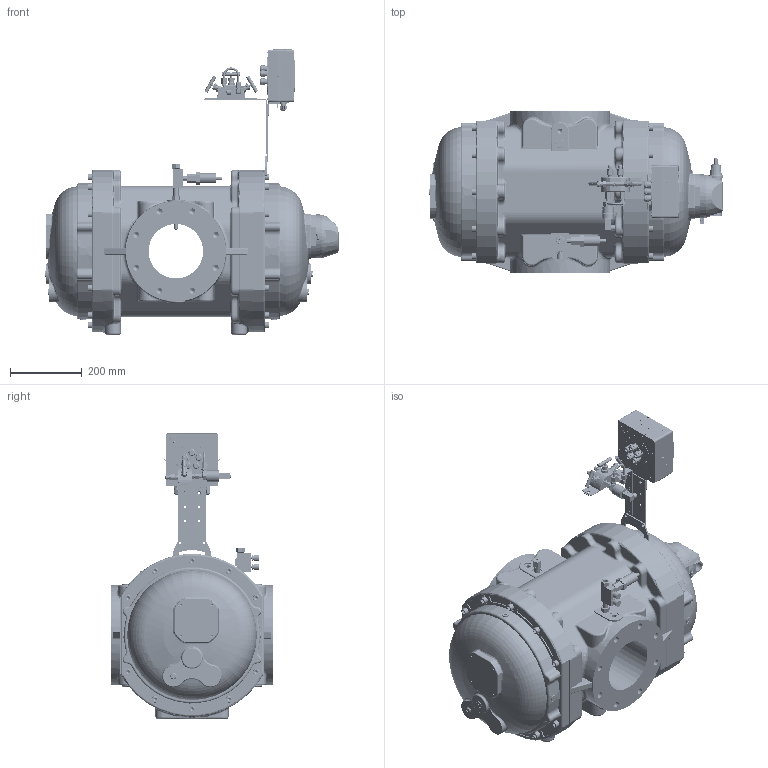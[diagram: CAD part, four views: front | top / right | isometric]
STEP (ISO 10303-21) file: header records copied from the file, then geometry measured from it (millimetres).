
FILE_DESCRIPTION(('STEP AP242'), '1');
FILE_NAME('ÝÐ-245-G650 áåç èñòîðèè', '', ('UNSPECIFIED'), ('UNSPECIFIED'), 'C3D Converter', 'C3D Toolkit', '');
FILE_SCHEMA(('AP242_MANAGED_MODEL_BASED_3D_ENGINEERING_MIM_LF { 1 0 10303 442 1 1 4 }'));
Length unit declared in the file: millimetre
Bounding box: 820 x 450 x 796.54 mm (x, y, z)
Volume: 33177812.8 mm3; surface area: 2963497.2 mm2
Topology: 172 solids, 174 shells, 34311 faces, 92814 edges, 61158 vertices
Faces by surface type: plane 15686, extrusion 11492, cylinder 4762, bspline 909, cone 792, torus 593, sphere 77
Full cylindrical faces by diameter (mm): 1.5 x1, 1.95 x3, 2 x12, 2.459 x22, 2.5 x4, 2.791 x2, 2.9 x4, 3 x30, 3.2 x13, 3.242 x8, 3.3 x6, 3.45 x7, 3.5 x16, 4 x18, 4.1 x8, 4.134 x1, 4.2 x12, 4.4 x1, 4.917 x13, 5 x26, 5.2 x4, 5.5 x20, 5.6 x20, 6 x15, 6.2 x2, 6.4 x6, 6.5 x8, 7 x18, 8 x22, 8.5 x7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
Entity records: 1484815 total; most frequent: CARTESIAN_POINT 425260, ORIENTED_EDGE 182195, DIRECTION 131374, EDGE_CURVE 91098, VECTOR 63908, VERTEX_POINT 61058, LINE 52416, EDGE_LOOP 38636
